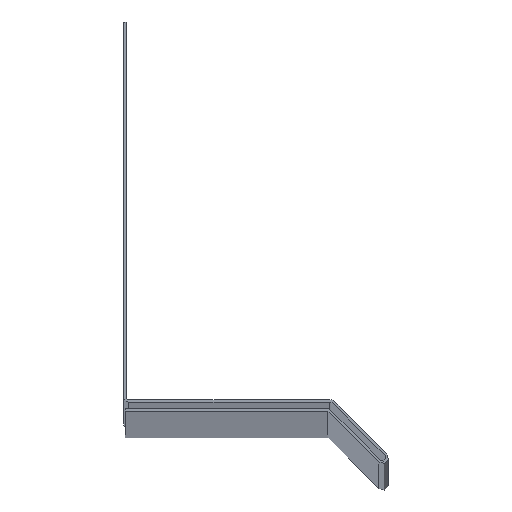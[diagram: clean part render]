
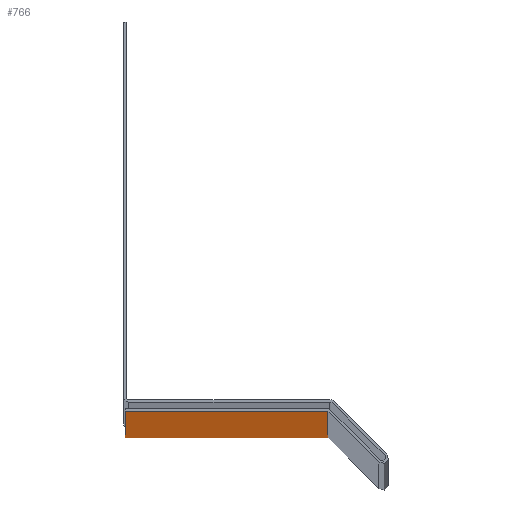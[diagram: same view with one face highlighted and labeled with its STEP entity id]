
A CAD part, top view. The second image highlights one B-rep face of the part: STEP entity #766.
In plain terms, the highlighted planar face has unit normal (0, -1, 0).
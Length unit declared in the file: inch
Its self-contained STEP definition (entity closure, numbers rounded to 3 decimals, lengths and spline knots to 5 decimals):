
#32 = CARTESIAN_POINT ( 'NONE',  ( 1.61257, -0.07, 0. ) ) ;
#50 = VECTOR ( 'NONE', #680, 39.37008 ) ;
#56 = ORIENTED_EDGE ( 'NONE', *, *, #402, .F. ) ;
#66 = EDGE_CURVE ( 'NONE', #281, #710, #512, .T. ) ;
#83 = DIRECTION ( 'NONE',  ( 1., 0., 0. ) ) ;
#105 = CARTESIAN_POINT ( 'NONE',  ( 1.61257, -0.07, 120. ) ) ;
#198 = LINE ( 'NONE', #616, #424 ) ;
#212 = CARTESIAN_POINT ( 'NONE',  ( 1.61257, -0.07, 120. ) ) ;
#239 = CARTESIAN_POINT ( 'NONE',  ( 1.61257, -0.07, 120. ) ) ;
#240 = EDGE_CURVE ( 'NONE', #710, #260, #198, .T. ) ;
#247 = DIRECTION ( 'NONE',  ( 0., 0., -1. ) ) ;
#260 = VERTEX_POINT ( 'NONE', #671 ) ;
#281 = VERTEX_POINT ( 'NONE', #585 ) ;
#325 = CARTESIAN_POINT ( 'NONE',  ( 1.61257, -0.07, 0. ) ) ;
#352 = LINE ( 'NONE', #105, #570 ) ;
#354 = LINE ( 'NONE', #32, #50 ) ;
#392 = AXIS2_PLACEMENT_3D ( 'NONE', #239, #599, #83 ) ;
#402 = EDGE_CURVE ( 'NONE', #442, #260, #354, .T. ) ;
#424 = VECTOR ( 'NONE', #247, 39.37008 ) ;
#442 = VERTEX_POINT ( 'NONE', #325 ) ;
#495 = DIRECTION ( 'NONE',  ( -1., 0., 0. ) ) ;
#506 = ORIENTED_EDGE ( 'NONE', *, *, #528, .F. ) ;
#512 = LINE ( 'NONE', #212, #556 ) ;
#516 = ORIENTED_EDGE ( 'NONE', *, *, #240, .T. ) ;
#528 = EDGE_CURVE ( 'NONE', #281, #442, #352, .T. ) ;
#556 = VECTOR ( 'NONE', #495, 39.37008 ) ;
#570 = VECTOR ( 'NONE', #763, 39.37008 ) ;
#585 = CARTESIAN_POINT ( 'NONE',  ( 1.61257, -0.07, 120. ) ) ;
#599 = DIRECTION ( 'NONE',  ( 0., -1., 0. ) ) ;
#615 = ORIENTED_EDGE ( 'NONE', *, *, #66, .T. ) ;
#616 = CARTESIAN_POINT ( 'NONE',  ( 0.0143, -0.07, 120. ) ) ;
#625 = PLANE ( 'NONE',  #392 ) ;
#643 = EDGE_LOOP ( 'NONE', ( #56, #506, #615, #516 ) ) ;
#671 = CARTESIAN_POINT ( 'NONE',  ( 0.0143, -0.07, 0. ) ) ;
#676 = CARTESIAN_POINT ( 'NONE',  ( 0.0143, -0.07, 120. ) ) ;
#679 = FACE_OUTER_BOUND ( 'NONE', #643, .T. ) ;
#680 = DIRECTION ( 'NONE',  ( -1., 0., 0. ) ) ;
#710 = VERTEX_POINT ( 'NONE', #676 ) ;
#763 = DIRECTION ( 'NONE',  ( 0., 0., -1. ) ) ;
#766 = ADVANCED_FACE ( 'NONE', ( #679 ), #625, .T. ) ;
